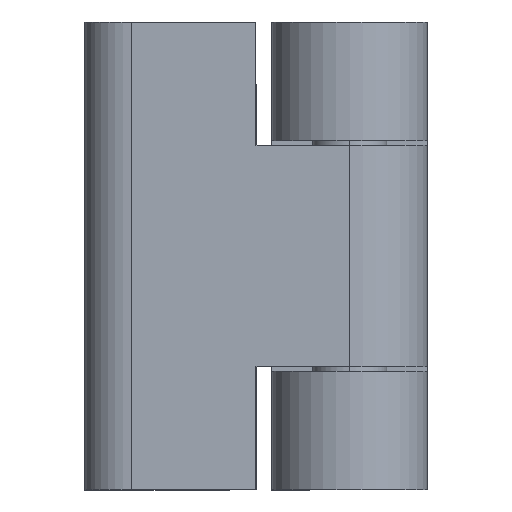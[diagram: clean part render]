
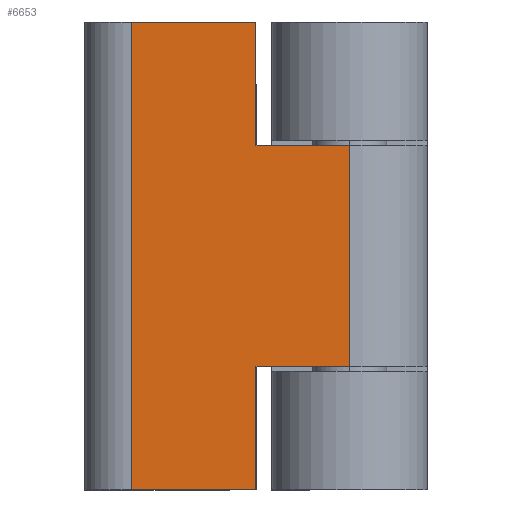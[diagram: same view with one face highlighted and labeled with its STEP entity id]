
A CAD part, top view. The second image highlights one B-rep face of the part: STEP entity #6653.
In plain terms, the highlighted planar face has unit normal (0, 0, 1).
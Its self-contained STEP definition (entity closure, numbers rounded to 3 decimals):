
#139 = EDGE_CURVE ( 'NONE', #3273, #2645, #11264, .T. ) ;
#477 = ORIENTED_EDGE ( 'NONE', *, *, #14289, .F. ) ;
#1245 = CARTESIAN_POINT ( 'NONE',  ( -2.5, -7.1, 13. ) ) ;
#1318 = VECTOR ( 'NONE', #17484, 1000. ) ;
#1625 = EDGE_CURVE ( 'NONE', #11084, #12649, #4830, .T. ) ;
#2645 = VERTEX_POINT ( 'NONE', #15906 ) ;
#2682 = VERTEX_POINT ( 'NONE', #9042 ) ;
#3273 = VERTEX_POINT ( 'NONE', #12684 ) ;
#3289 = VERTEX_POINT ( 'NONE', #4203 ) ;
#3321 = DIRECTION ( 'NONE',  ( 1., 0., 0. ) ) ;
#3904 = EDGE_CURVE ( 'NONE', #11084, #3289, #7287, .T. ) ;
#4203 = CARTESIAN_POINT ( 'NONE',  ( -2.5, 15., 13. ) ) ;
#4294 = LINE ( 'NONE', #18789, #9809 ) ;
#4435 = ORIENTED_EDGE ( 'NONE', *, *, #3904, .F. ) ;
#4830 = LINE ( 'NONE', #11546, #14577 ) ;
#5148 = EDGE_CURVE ( 'NONE', #3273, #5588, #13324, .T. ) ;
#5588 = VERTEX_POINT ( 'NONE', #16523 ) ;
#5946 = CARTESIAN_POINT ( 'NONE',  ( -13.5, -15., 13. ) ) ;
#6411 = ORIENTED_EDGE ( 'NONE', *, *, #20345, .F. ) ;
#6653 = ADVANCED_FACE ( 'NONE', ( #18097 ), #14986, .T. ) ;
#7287 = LINE ( 'NONE', #22470, #13895 ) ;
#7519 = AXIS2_PLACEMENT_3D ( 'NONE', #5946, #16261, #16709 ) ;
#7890 = VECTOR ( 'NONE', #3321, 1000. ) ;
#7974 = DIRECTION ( 'NONE',  ( 0., 1., 0. ) ) ;
#8627 = VERTEX_POINT ( 'NONE', #9626 ) ;
#9042 = CARTESIAN_POINT ( 'NONE',  ( -2.5, -15., 13. ) ) ;
#9207 = EDGE_LOOP ( 'NONE', ( #4435, #11252, #18937, #6411, #14887, #21821, #22603, #477 ) ) ;
#9626 = CARTESIAN_POINT ( 'NONE',  ( -2.5, 7.1, 13. ) ) ;
#9809 = VECTOR ( 'NONE', #22122, 1000. ) ;
#9937 = CARTESIAN_POINT ( 'NONE',  ( -10.5, -15., 13. ) ) ;
#9991 = CARTESIAN_POINT ( 'NONE',  ( -13.5, -15., 13. ) ) ;
#11084 = VERTEX_POINT ( 'NONE', #19189 ) ;
#11252 = ORIENTED_EDGE ( 'NONE', *, *, #1625, .T. ) ;
#11264 = LINE ( 'NONE', #20984, #16484 ) ;
#11546 = CARTESIAN_POINT ( 'NONE',  ( -10.5, -15., 13. ) ) ;
#11692 = CARTESIAN_POINT ( 'NONE',  ( 3.5, -15., 13. ) ) ;
#11789 = DIRECTION ( 'NONE',  ( 0., -1., 0. ) ) ;
#11853 = LINE ( 'NONE', #9991, #1318 ) ;
#12161 = CARTESIAN_POINT ( 'NONE',  ( -2.5, 7.1, 13. ) ) ;
#12649 = VERTEX_POINT ( 'NONE', #9937 ) ;
#12684 = CARTESIAN_POINT ( 'NONE',  ( 3.5, -7.1, 13. ) ) ;
#13324 = LINE ( 'NONE', #11692, #20875 ) ;
#13895 = VECTOR ( 'NONE', #14130, 1000. ) ;
#14130 = DIRECTION ( 'NONE',  ( 1., 0., 0. ) ) ;
#14151 = DIRECTION ( 'NONE',  ( -1., 0., 0. ) ) ;
#14289 = EDGE_CURVE ( 'NONE', #3289, #8627, #4294, .T. ) ;
#14577 = VECTOR ( 'NONE', #11789, 1000. ) ;
#14887 = ORIENTED_EDGE ( 'NONE', *, *, #139, .F. ) ;
#14986 = PLANE ( 'NONE',  #7519 ) ;
#15906 = CARTESIAN_POINT ( 'NONE',  ( -2.5, -7.1, 13. ) ) ;
#16099 = VECTOR ( 'NONE', #20803, 1000. ) ;
#16261 = DIRECTION ( 'NONE',  ( 0., 0., 1. ) ) ;
#16484 = VECTOR ( 'NONE', #14151, 1000. ) ;
#16523 = CARTESIAN_POINT ( 'NONE',  ( 3.5, 7.1, 13. ) ) ;
#16680 = EDGE_CURVE ( 'NONE', #8627, #5588, #17703, .T. ) ;
#16709 = DIRECTION ( 'NONE',  ( 1., 0., 0. ) ) ;
#17337 = EDGE_CURVE ( 'NONE', #12649, #2682, #11853, .T. ) ;
#17484 = DIRECTION ( 'NONE',  ( 1., 0., 0. ) ) ;
#17703 = LINE ( 'NONE', #12161, #7890 ) ;
#18097 = FACE_OUTER_BOUND ( 'NONE', #9207, .T. ) ;
#18789 = CARTESIAN_POINT ( 'NONE',  ( -2.5, 15., 13. ) ) ;
#18937 = ORIENTED_EDGE ( 'NONE', *, *, #17337, .T. ) ;
#19189 = CARTESIAN_POINT ( 'NONE',  ( -10.5, 15., 13. ) ) ;
#20345 = EDGE_CURVE ( 'NONE', #2645, #2682, #21137, .T. ) ;
#20803 = DIRECTION ( 'NONE',  ( 0., -1., 0. ) ) ;
#20875 = VECTOR ( 'NONE', #7974, 1000. ) ;
#20984 = CARTESIAN_POINT ( 'NONE',  ( 19.41, -7.1, 13. ) ) ;
#21137 = LINE ( 'NONE', #1245, #16099 ) ;
#21821 = ORIENTED_EDGE ( 'NONE', *, *, #5148, .T. ) ;
#22122 = DIRECTION ( 'NONE',  ( 0., -1., 0. ) ) ;
#22470 = CARTESIAN_POINT ( 'NONE',  ( -13.5, 15., 13. ) ) ;
#22603 = ORIENTED_EDGE ( 'NONE', *, *, #16680, .F. ) ;
